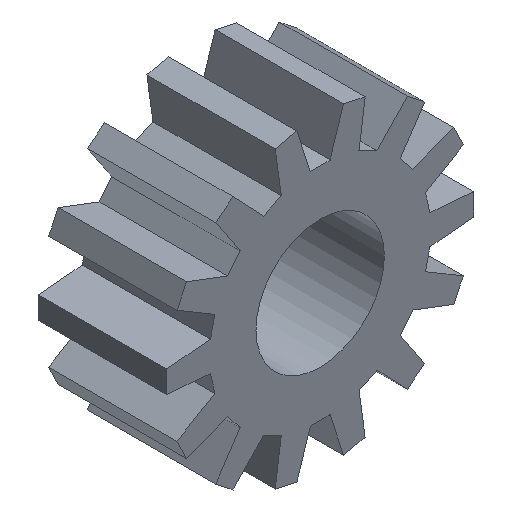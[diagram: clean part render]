
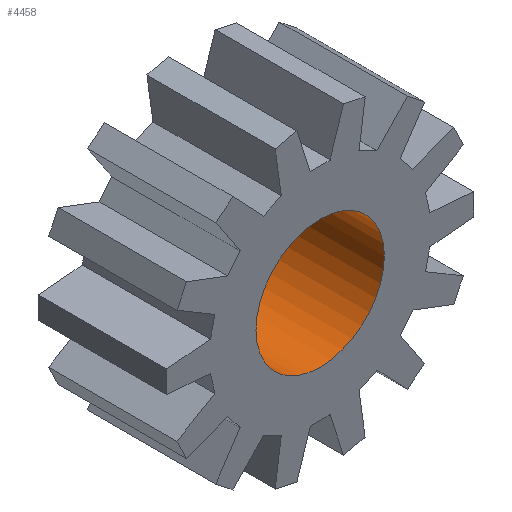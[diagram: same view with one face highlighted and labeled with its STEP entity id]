
A CAD part, isometric view. The second image highlights one B-rep face of the part: STEP entity #4458.
In plain terms, the highlighted cylindrical face has radius 5 mm (diameter 10 mm), a full revolution.
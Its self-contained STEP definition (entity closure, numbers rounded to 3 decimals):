
#72 = PLANE('',#73);
#73 = AXIS2_PLACEMENT_3D('',#74,#75,#76);
#74 = CARTESIAN_POINT('',(0.,46.,82.5));
#75 = DIRECTION('',(0.,1.,0.));
#76 = DIRECTION('',(1.,0.,0.));
#126 = PLANE('',#127);
#127 = AXIS2_PLACEMENT_3D('',#128,#129,#130);
#128 = CARTESIAN_POINT('',(0.,36.,82.5));
#129 = DIRECTION('',(0.,1.,0.));
#130 = DIRECTION('',(1.,0.,0.));
#1770 = EDGE_CURVE('',#1771,#1771,#1773,.T.);
#1771 = VERTEX_POINT('',#1772);
#1772 = CARTESIAN_POINT('',(5.,36.,82.5));
#1773 = SURFACE_CURVE('',#1774,(#1779,#1786),.PCURVE_S1.);
#1774 = CIRCLE('',#1775,5.);
#1775 = AXIS2_PLACEMENT_3D('',#1776,#1777,#1778);
#1776 = CARTESIAN_POINT('',(0.,36.,82.5));
#1777 = DIRECTION('',(-0.,1.,0.));
#1778 = DIRECTION('',(1.,0.,0.));
#1779 = PCURVE('',#126,#1780);
#1780 = DEFINITIONAL_REPRESENTATION('',(#1781),#1785);
#1781 = CIRCLE('',#1782,5.);
#1782 = AXIS2_PLACEMENT_2D('',#1783,#1784);
#1783 = CARTESIAN_POINT('',(0.,0.));
#1784 = DIRECTION('',(1.,0.));
#1785 = ( GEOMETRIC_REPRESENTATION_CONTEXT(2) 
PARAMETRIC_REPRESENTATION_CONTEXT() REPRESENTATION_CONTEXT('2D SPACE',''
  ) );
#1786 = PCURVE('',#1787,#1792);
#1787 = CYLINDRICAL_SURFACE('',#1788,5.);
#1788 = AXIS2_PLACEMENT_3D('',#1789,#1790,#1791);
#1789 = CARTESIAN_POINT('',(0.,35.,82.5));
#1790 = DIRECTION('',(0.,1.,0.));
#1791 = DIRECTION('',(1.,0.,0.));
#1792 = DEFINITIONAL_REPRESENTATION('',(#1793),#1797);
#1793 = LINE('',#1794,#1795);
#1794 = CARTESIAN_POINT('',(0.,1.));
#1795 = VECTOR('',#1796,1.);
#1796 = DIRECTION('',(1.,0.));
#1797 = ( GEOMETRIC_REPRESENTATION_CONTEXT(2) 
PARAMETRIC_REPRESENTATION_CONTEXT() REPRESENTATION_CONTEXT('2D SPACE',''
  ) );
#3024 = EDGE_CURVE('',#3025,#3025,#3027,.T.);
#3025 = VERTEX_POINT('',#3026);
#3026 = CARTESIAN_POINT('',(5.,46.,82.5));
#3027 = SURFACE_CURVE('',#3028,(#3033,#3040),.PCURVE_S1.);
#3028 = CIRCLE('',#3029,5.);
#3029 = AXIS2_PLACEMENT_3D('',#3030,#3031,#3032);
#3030 = CARTESIAN_POINT('',(0.,46.,82.5));
#3031 = DIRECTION('',(-0.,1.,0.));
#3032 = DIRECTION('',(1.,0.,0.));
#3033 = PCURVE('',#72,#3034);
#3034 = DEFINITIONAL_REPRESENTATION('',(#3035),#3039);
#3035 = CIRCLE('',#3036,5.);
#3036 = AXIS2_PLACEMENT_2D('',#3037,#3038);
#3037 = CARTESIAN_POINT('',(0.,0.));
#3038 = DIRECTION('',(1.,0.));
#3039 = ( GEOMETRIC_REPRESENTATION_CONTEXT(2) 
PARAMETRIC_REPRESENTATION_CONTEXT() REPRESENTATION_CONTEXT('2D SPACE',''
  ) );
#3040 = PCURVE('',#1787,#3041);
#3041 = DEFINITIONAL_REPRESENTATION('',(#3042),#3046);
#3042 = LINE('',#3043,#3044);
#3043 = CARTESIAN_POINT('',(0.,11.));
#3044 = VECTOR('',#3045,1.);
#3045 = DIRECTION('',(1.,0.));
#3046 = ( GEOMETRIC_REPRESENTATION_CONTEXT(2) 
PARAMETRIC_REPRESENTATION_CONTEXT() REPRESENTATION_CONTEXT('2D SPACE',''
  ) );
#4458 = ADVANCED_FACE('',(#4459),#1787,.F.);
#4459 = FACE_BOUND('',#4460,.F.);
#4460 = EDGE_LOOP('',(#4461,#4462,#4483,#4484));
#4461 = ORIENTED_EDGE('',*,*,#3024,.F.);
#4462 = ORIENTED_EDGE('',*,*,#4463,.F.);
#4463 = EDGE_CURVE('',#1771,#3025,#4464,.T.);
#4464 = SEAM_CURVE('',#4465,(#4469,#4476),.PCURVE_S1.);
#4465 = LINE('',#4466,#4467);
#4466 = CARTESIAN_POINT('',(5.,35.,82.5));
#4467 = VECTOR('',#4468,1.);
#4468 = DIRECTION('',(0.,1.,0.));
#4469 = PCURVE('',#1787,#4470);
#4470 = DEFINITIONAL_REPRESENTATION('',(#4471),#4475);
#4471 = LINE('',#4472,#4473);
#4472 = CARTESIAN_POINT('',(6.283,-0.));
#4473 = VECTOR('',#4474,1.);
#4474 = DIRECTION('',(0.,1.));
#4475 = ( GEOMETRIC_REPRESENTATION_CONTEXT(2) 
PARAMETRIC_REPRESENTATION_CONTEXT() REPRESENTATION_CONTEXT('2D SPACE',''
  ) );
#4476 = PCURVE('',#1787,#4477);
#4477 = DEFINITIONAL_REPRESENTATION('',(#4478),#4482);
#4478 = LINE('',#4479,#4480);
#4479 = CARTESIAN_POINT('',(0.,-0.));
#4480 = VECTOR('',#4481,1.);
#4481 = DIRECTION('',(0.,1.));
#4482 = ( GEOMETRIC_REPRESENTATION_CONTEXT(2) 
PARAMETRIC_REPRESENTATION_CONTEXT() REPRESENTATION_CONTEXT('2D SPACE',''
  ) );
#4483 = ORIENTED_EDGE('',*,*,#1770,.T.);
#4484 = ORIENTED_EDGE('',*,*,#4463,.T.);
